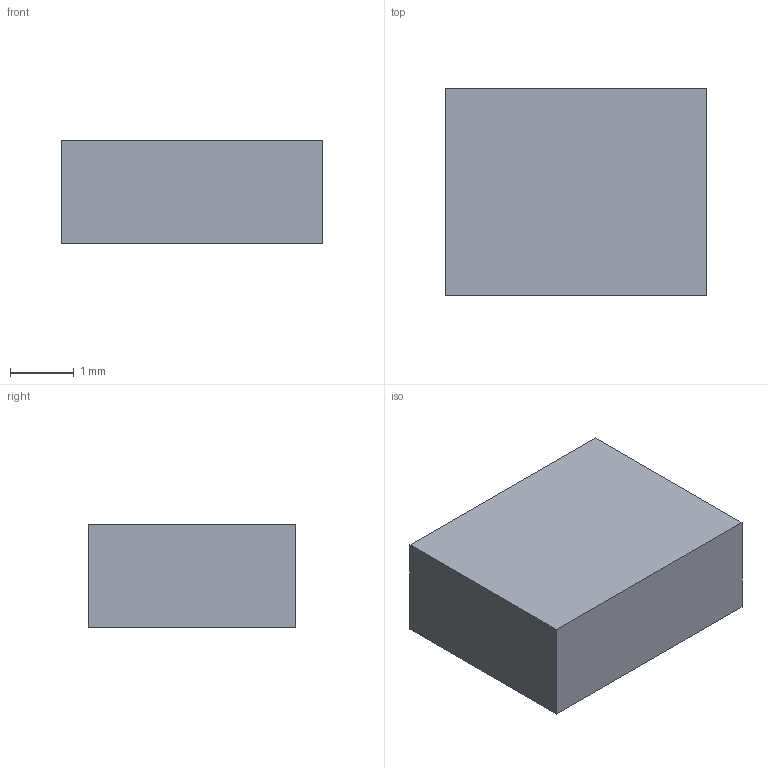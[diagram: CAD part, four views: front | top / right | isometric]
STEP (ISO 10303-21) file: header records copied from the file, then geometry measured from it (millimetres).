
FILE_DESCRIPTION(/* description */ (''),/* implementation_level */ '2;1');
FILE_NAME(/* name */ 'REF_lower_LPG_max_body.step',/* time_stamp */ '2026-11-14T21:40:03-08:00',/* author */ (''),/* organization */ (''),/* preprocessor_version */ 'ST-DEVELOPER v20.2',/* originating_system */ 'Autodesk Translation Framework v15.17.0.0',/* authorisation */ '');
FILE_SCHEMA (('AUTOMOTIVE_DESIGN { 1 0 10303 214 3 1 1 }'));
Length unit declared in the file: millimetre
Products named in the file (1): 2026-11-14-21-40-03-083
Bounding box: 4.1 x 3.25 x 1.62 mm (x, y, z)
Volume: 21.6 mm3; surface area: 50.5 mm2
Topology: 1 solids, 1 shells, 6 faces, 12 edges, 8 vertices
Faces by surface type: plane 6
Entity records: 189 total; most frequent: CARTESIAN_POINT 27, DIRECTION 26, ORIENTED_EDGE 24, LINE 12, VECTOR 12, EDGE_CURVE 12, VERTEX_POINT 8, AXIS2_PLACEMENT_3D 7
